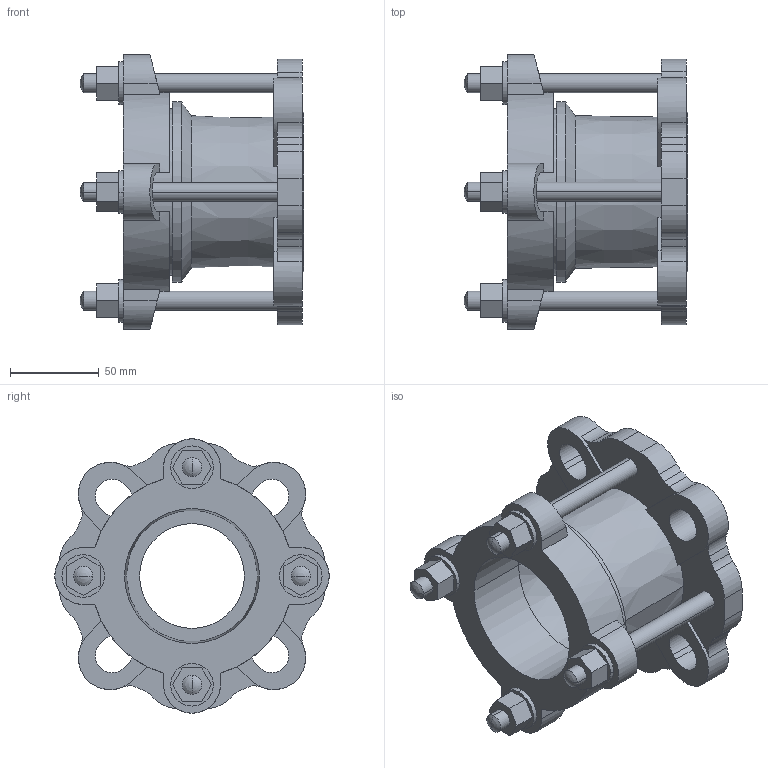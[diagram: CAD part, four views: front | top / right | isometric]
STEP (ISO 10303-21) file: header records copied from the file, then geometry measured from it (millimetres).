
FILE_DESCRIPTION((''),'2;1');
FILE_NAME('BIM_12419_1','2018-10-05T',('MReader'),(''),'CREO PARAMETRIC BY PTC INC, 2016130','CREO PARAMETRIC BY PTC INC, 2016130','');
FILE_SCHEMA(('CONFIG_CONTROL_DESIGN'));
Length unit declared in the file: millimetre
Products named in the file (1): BIM_12419_1
Bounding box: 126 x 154.5 x 154.5 mm (x, y, z)
Volume: 489209.4 mm3; surface area: 126418.6 mm2
Topology: 1 solids, 1 shells, 205 faces, 554 edges, 358 vertices
Faces by surface type: plane 101, cylinder 90, sphere 8, cone 6
Entity records: 6610 total; most frequent: CARTESIAN_POINT 1243, DIRECTION 1158, ORIENTED_EDGE 1092, EDGE_CURVE 546, AXIS2_PLACEMENT_3D 423, VERTEX_POINT 358, VECTOR 312, LINE 312
